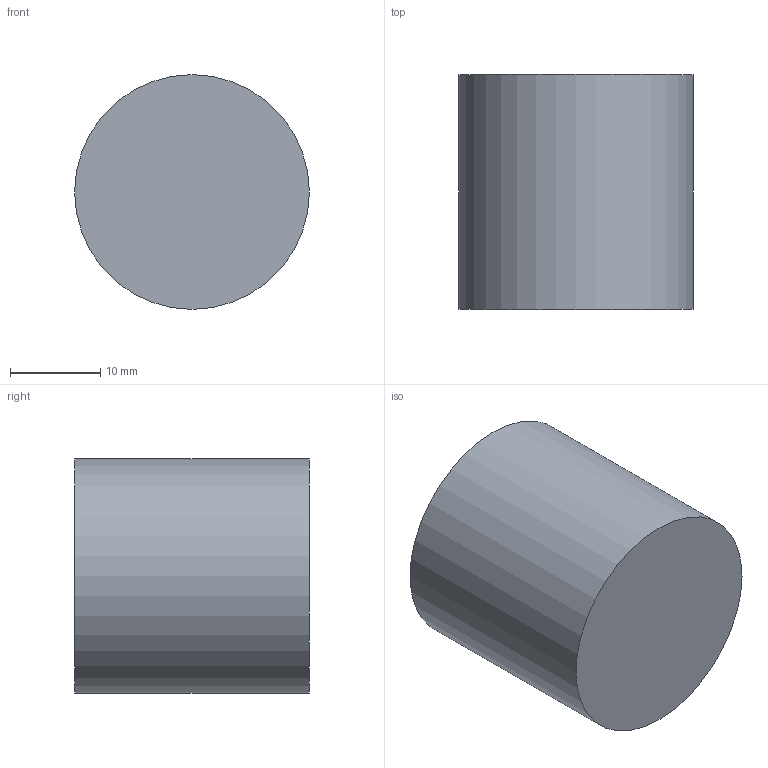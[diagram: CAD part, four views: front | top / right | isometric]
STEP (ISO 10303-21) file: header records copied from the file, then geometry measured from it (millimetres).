
FILE_DESCRIPTION(('Open CASCADE Model'),'2;1');
FILE_NAME('Open CASCADE Shape Model','2026-10-21T10:33:18',('Author'),( 'Open CASCADE'),'Open CASCADE STEP processor 7.9','Open CASCADE 7.9' ,'Unknown');
FILE_SCHEMA(('AUTOMOTIVE_DESIGN { 1 0 10303 214 1 1 1 1 }'));
Length unit declared in the file: millimetre
Products named in the file (1): Open CASCADE STEP translator 7.9 16
Bounding box: 26 x 26 x 26 mm (x, y, z)
Volume: 13804.2 mm3; surface area: 3185.6 mm2
Topology: 1 solids, 1 shells, 3 faces, 3 edges, 2 vertices
Faces by surface type: plane 2, cylinder 1
Full cylindrical faces by diameter (mm): 26 x1
Entity records: 108 total; most frequent: DIRECTION 19, CARTESIAN_POINT 15, AXIS2_PLACEMENT_3D 6, ORIENTED_EDGE 6, PCURVE 6, DEFINITIONAL_REPRESENTATION 6, LINE 5, VECTOR 5
